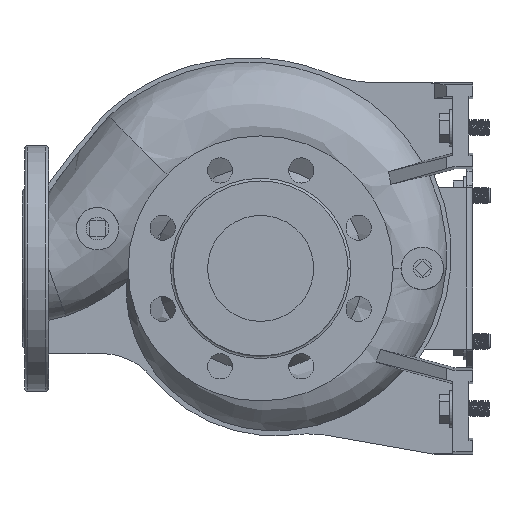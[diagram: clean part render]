
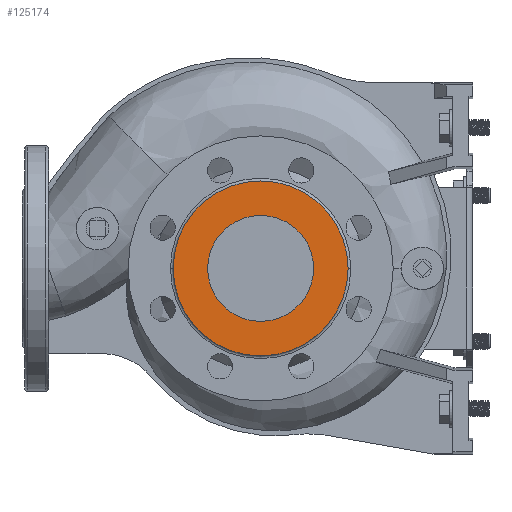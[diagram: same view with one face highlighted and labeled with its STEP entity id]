
A CAD part, left-side view. The second image highlights one B-rep face of the part: STEP entity #125174.
In plain terms, the highlighted planar face has unit normal (-1, 0, 0).
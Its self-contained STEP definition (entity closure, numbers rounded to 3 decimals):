
#3883 = AXIS2_PLACEMENT_3D ( 'NONE', #26285, #190294, #56098 ) ;
#4535 = CIRCLE ( 'NONE', #185395, 40. ) ;
#5018 = PLANE ( 'NONE',  #54956 ) ;
#5709 = DIRECTION ( 'NONE',  ( -1., 0., 0. ) ) ;
#9596 = DIRECTION ( 'NONE',  ( 0., -1., 0. ) ) ;
#11020 = CIRCLE ( 'NONE', #185520, 66. ) ;
#20171 = ORIENTED_EDGE ( 'NONE', *, *, #184652, .F. ) ;
#26058 = EDGE_CURVE ( 'NONE', #172417, #43844, #92651, .T. ) ;
#26285 = CARTESIAN_POINT ( 'NONE',  ( -100., 0., 0. ) ) ;
#37386 = EDGE_LOOP ( 'NONE', ( #174168, #164864 ) ) ;
#39516 = VERTEX_POINT ( 'NONE', #179052 ) ;
#43232 = CARTESIAN_POINT ( 'NONE',  ( -100., 66., 0. ) ) ;
#43844 = VERTEX_POINT ( 'NONE', #71581 ) ;
#54956 = AXIS2_PLACEMENT_3D ( 'NONE', #97365, #80515, #189777 ) ;
#56098 = DIRECTION ( 'NONE',  ( 0., -1., 0. ) ) ;
#71581 = CARTESIAN_POINT ( 'NONE',  ( -100., -40., 0. ) ) ;
#71859 = EDGE_LOOP ( 'NONE', ( #20171, #72099 ) ) ;
#72099 = ORIENTED_EDGE ( 'NONE', *, *, #26058, .F. ) ;
#80515 = DIRECTION ( 'NONE',  ( 1., 0., 0. ) ) ;
#88401 = AXIS2_PLACEMENT_3D ( 'NONE', #155753, #185584, #111992 ) ;
#90282 = CARTESIAN_POINT ( 'NONE',  ( -100., 0., 0. ) ) ;
#92651 = CIRCLE ( 'NONE', #3883, 40. ) ;
#97365 = CARTESIAN_POINT ( 'NONE',  ( -100., 0., 0. ) ) ;
#98526 = EDGE_CURVE ( 'NONE', #39516, #139446, #174084, .T. ) ;
#109848 = DIRECTION ( 'NONE',  ( 0., -1., 0. ) ) ;
#111992 = DIRECTION ( 'NONE',  ( 0., -1., 0. ) ) ;
#113207 = CARTESIAN_POINT ( 'NONE',  ( -100., 40., 0. ) ) ;
#125174 = ADVANCED_FACE ( 'NONE', ( #145025, #157995 ), #5018, .F. ) ;
#139446 = VERTEX_POINT ( 'NONE', #43232 ) ;
#145025 = FACE_BOUND ( 'NONE', #71859, .T. ) ;
#148417 = EDGE_CURVE ( 'NONE', #139446, #39516, #11020, .T. ) ;
#155753 = CARTESIAN_POINT ( 'NONE',  ( -100., 0., 0. ) ) ;
#157509 = DIRECTION ( 'NONE',  ( -1., 0., 0. ) ) ;
#157995 = FACE_OUTER_BOUND ( 'NONE', #37386, .T. ) ;
#164864 = ORIENTED_EDGE ( 'NONE', *, *, #148417, .T. ) ;
#172417 = VERTEX_POINT ( 'NONE', #113207 ) ;
#174084 = CIRCLE ( 'NONE', #88401, 66. ) ;
#174168 = ORIENTED_EDGE ( 'NONE', *, *, #98526, .T. ) ;
#179052 = CARTESIAN_POINT ( 'NONE',  ( -100., -66., 0. ) ) ;
#184652 = EDGE_CURVE ( 'NONE', #43844, #172417, #4535, .T. ) ;
#185395 = AXIS2_PLACEMENT_3D ( 'NONE', #90282, #157509, #109848 ) ;
#185520 = AXIS2_PLACEMENT_3D ( 'NONE', #190456, #5709, #9596 ) ;
#185584 = DIRECTION ( 'NONE',  ( -1., 0., 0. ) ) ;
#189777 = DIRECTION ( 'NONE',  ( 0., 1., 0. ) ) ;
#190294 = DIRECTION ( 'NONE',  ( -1., 0., 0. ) ) ;
#190456 = CARTESIAN_POINT ( 'NONE',  ( -100., 0., 0. ) ) ;
